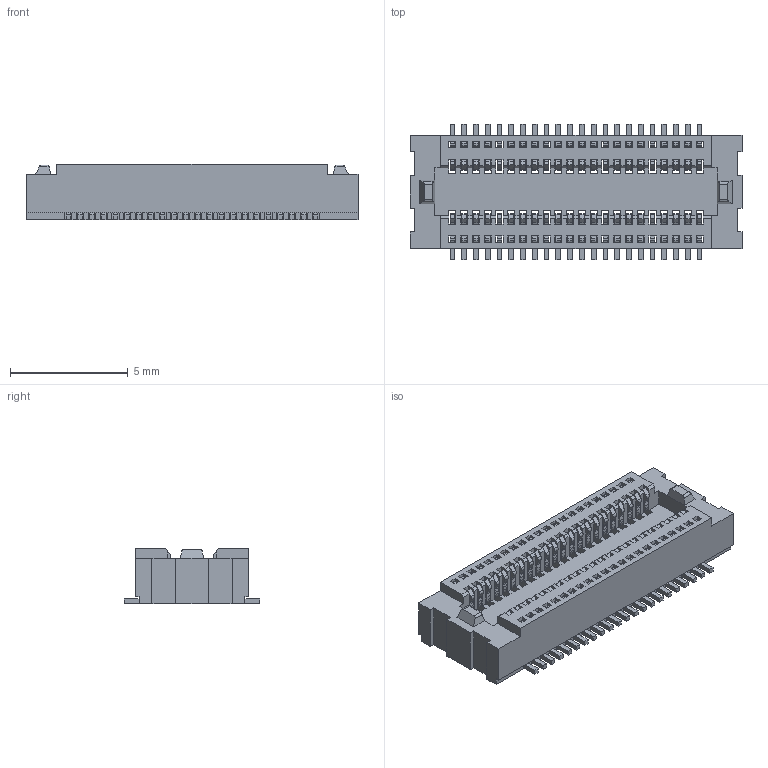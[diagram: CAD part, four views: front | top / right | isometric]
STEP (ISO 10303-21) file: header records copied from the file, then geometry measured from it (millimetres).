
FILE_DESCRIPTION(('CATIA V5 STEP Exchange'),'2;1');
FILE_NAME('F:\黄富鸿\板对板\0.5 单槽\无柱\母座\H2.35\HC-PBB05-1-44-F-H2.35-G1-R-06 (BTB0.5 单槽 母座 立贴 编带)-HCTL.stp','2026-01-21T01:29:41+00:00',('none'),('none'),'CATIA Version 5 Release 20 GA (IN-10)','CATIA V5 STEP AP203','none');
FILE_SCHEMA(('CONFIG_CONTROL_DESIGN'));
Length unit declared in the file: millimetre
Products named in the file (1): Part2
Bounding box: 14.1 x 5.76 x 2.35 mm (x, y, z)
Volume: 104.7 mm3; surface area: 715.5 mm2
Topology: 45 solids, 45 shells, 1990 faces, 6092 edges, 4060 vertices
Faces by surface type: plane 1370, cylinder 620
Entity records: 57972 total; most frequent: ORIENTED_EDGE 12184, CARTESIAN_POINT 10421, DIRECTION 6464, EDGE_CURVE 6092, VECTOR 4852, LINE 4852, VERTEX_POINT 4060, EDGE_LOOP 2034
